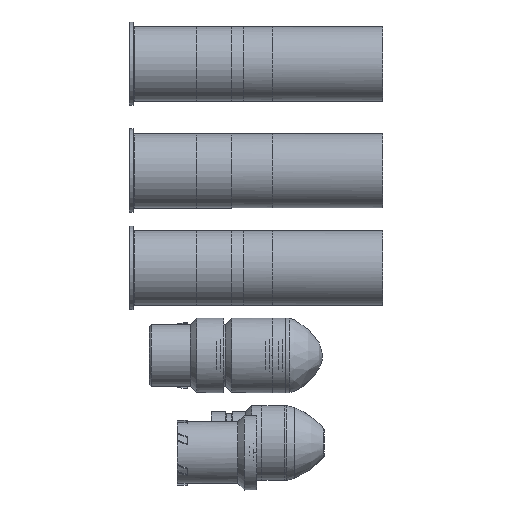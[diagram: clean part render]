
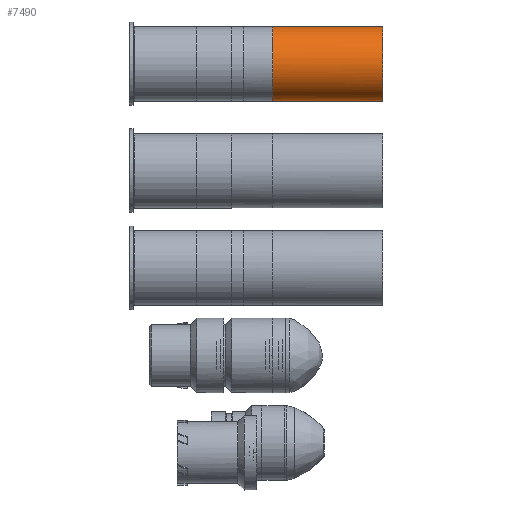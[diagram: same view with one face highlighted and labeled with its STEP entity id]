
A CAD part, front view. The second image highlights one B-rep face of the part: STEP entity #7490.
In plain terms, the highlighted cylindrical face has radius 19.175 mm (diameter 38.35 mm), a full revolution.
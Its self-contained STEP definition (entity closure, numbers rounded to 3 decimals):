
#736=LINE('',#26886,#933);
#933=VECTOR('',#10339,19.175);
#1425=FACE_OUTER_BOUND('',#1976,.T.);
#1976=EDGE_LOOP('',(#6599,#6600,#6601,#6602,#6603,#6604));
#2482=CIRCLE('',#8547,19.175);
#2483=CIRCLE('',#8548,19.175);
#2945=B_SPLINE_CURVE_WITH_KNOTS('',3,(#26835,#26836,#26837,#26838,#26839,
#26840,#26841,#26842,#26843,#26844,#26845,#26846,#26847,#26848,#26849,#26850,
#26851,#26852,#26853,#26854,#26855,#26856,#26857,#26858,#26859),
 .UNSPECIFIED.,.F.,.F.,(4,3,3,3,3,3,3,3,4),(16.714,17.002,
17.578,18.729,19.304,20.168,21.031,
21.894,22.757),.UNSPECIFIED.);
#2946=B_SPLINE_CURVE_WITH_KNOTS('',3,(#26860,#26861,#26862,#26863,#26864,
#26865,#26866,#26867,#26868,#26869,#26870,#26871,#26872,#26873,#26874,#26875,
#26876,#26877,#26878,#26879,#26880,#26881,#26882,#26883,#26884),
 .UNSPECIFIED.,.F.,.F.,(4,3,3,3,3,3,3,3,4),(10.673,11.536,
12.399,13.55,14.125,14.701,15.276,
15.851,16.714),.UNSPECIFIED.);
#3562=VERTEX_POINT('',#26679);
#3563=VERTEX_POINT('',#26681);
#3570=VERTEX_POINT('',#26829);
#3571=VERTEX_POINT('',#26834);
#4586=EDGE_CURVE('',#3562,#3563,#2482,.T.);
#4587=EDGE_CURVE('',#3563,#3562,#2483,.T.);
#4599=EDGE_CURVE('',#3570,#3571,#2945,.F.);
#4600=EDGE_CURVE('',#3571,#3570,#2946,.F.);
#4601=EDGE_CURVE('',#3563,#3571,#736,.T.);
#6599=ORIENTED_EDGE('',*,*,#4587,.F.);
#6600=ORIENTED_EDGE('',*,*,#4601,.T.);
#6601=ORIENTED_EDGE('',*,*,#4599,.F.);
#6602=ORIENTED_EDGE('',*,*,#4600,.F.);
#6603=ORIENTED_EDGE('',*,*,#4601,.F.);
#6604=ORIENTED_EDGE('',*,*,#4586,.F.);
#7066=CYLINDRICAL_SURFACE('',#8558,19.175);
#7490=ADVANCED_FACE('',(#1425),#7066,.T.);
#8547=AXIS2_PLACEMENT_3D('',#26682,#10313,#10314);
#8548=AXIS2_PLACEMENT_3D('',#26683,#10315,#10316);
#8558=AXIS2_PLACEMENT_3D('',#26885,#10337,#10338);
#10313=DIRECTION('center_axis',(-1.,0.,0.));
#10314=DIRECTION('ref_axis',(0.,-1.,0.));
#10315=DIRECTION('center_axis',(-1.,0.,0.));
#10316=DIRECTION('ref_axis',(0.,-1.,0.));
#10337=DIRECTION('center_axis',(-1.,0.,0.));
#10338=DIRECTION('ref_axis',(0.,-1.,0.));
#10339=DIRECTION('',(1.,0.,0.));
#26679=CARTESIAN_POINT('',(-180.13,120.,80.825));
#26681=CARTESIAN_POINT('',(-180.13,139.175,100.));
#26682=CARTESIAN_POINT('Origin',(-180.13,120.,100.));
#26683=CARTESIAN_POINT('Origin',(-180.13,120.,100.));
#26829=CARTESIAN_POINT('',(-52.443,100.825,100.));
#26834=CARTESIAN_POINT('',(-52.443,139.173,100.));
#26835=CARTESIAN_POINT('Ctrl Pts',(-52.443,139.173,100.));
#26836=CARTESIAN_POINT('Ctrl Pts',(-52.443,139.175,99.044));
#26837=CARTESIAN_POINT('Ctrl Pts',(-52.443,139.106,98.088));
#26838=CARTESIAN_POINT('Ctrl Pts',(-52.443,138.965,97.141));
#26839=CARTESIAN_POINT('Ctrl Pts',(-52.443,138.684,95.249));
#26840=CARTESIAN_POINT('Ctrl Pts',(-52.443,138.113,93.398));
#26841=CARTESIAN_POINT('Ctrl Pts',(-52.443,137.279,91.676));
#26842=CARTESIAN_POINT('Ctrl Pts',(-52.443,135.613,88.233));
#26843=CARTESIAN_POINT('Ctrl Pts',(-52.443,132.897,85.309));
#26844=CARTESIAN_POINT('Ctrl Pts',(-52.443,129.589,83.393));
#26845=CARTESIAN_POINT('Ctrl Pts',(-52.443,127.934,82.435));
#26846=CARTESIAN_POINT('Ctrl Pts',(-52.443,126.131,81.729));
#26847=CARTESIAN_POINT('Ctrl Pts',(-52.443,124.266,81.305));
#26848=CARTESIAN_POINT('Ctrl Pts',(-52.443,121.468,80.669));
#26849=CARTESIAN_POINT('Ctrl Pts',(-52.443,118.528,80.668));
#26850=CARTESIAN_POINT('Ctrl Pts',(-52.443,115.733,81.305));
#26851=CARTESIAN_POINT('Ctrl Pts',(-52.443,112.938,81.943));
#26852=CARTESIAN_POINT('Ctrl Pts',(-52.443,110.286,83.22));
#26853=CARTESIAN_POINT('Ctrl Pts',(-52.443,108.044,85.009));
#26854=CARTESIAN_POINT('Ctrl Pts',(-52.443,105.801,86.797));
#26855=CARTESIAN_POINT('Ctrl Pts',(-52.443,103.968,89.096));
#26856=CARTESIAN_POINT('Ctrl Pts',(-52.443,102.724,91.68));
#26857=CARTESIAN_POINT('Ctrl Pts',(-52.443,101.48,94.264));
#26858=CARTESIAN_POINT('Ctrl Pts',(-52.443,100.825,97.131));
#26859=CARTESIAN_POINT('Ctrl Pts',(-52.443,100.825,100.));
#26860=CARTESIAN_POINT('Ctrl Pts',(-52.443,100.825,100.));
#26861=CARTESIAN_POINT('Ctrl Pts',(-52.443,100.825,102.869));
#26862=CARTESIAN_POINT('Ctrl Pts',(-52.443,101.48,105.733));
#26863=CARTESIAN_POINT('Ctrl Pts',(-52.443,102.724,108.318));
#26864=CARTESIAN_POINT('Ctrl Pts',(-52.443,103.968,110.903));
#26865=CARTESIAN_POINT('Ctrl Pts',(-52.443,105.801,113.208));
#26866=CARTESIAN_POINT('Ctrl Pts',(-52.443,108.043,114.995));
#26867=CARTESIAN_POINT('Ctrl Pts',(-52.443,111.034,117.377));
#26868=CARTESIAN_POINT('Ctrl Pts',(-52.443,114.753,118.837));
#26869=CARTESIAN_POINT('Ctrl Pts',(-52.443,118.566,119.125));
#26870=CARTESIAN_POINT('Ctrl Pts',(-52.443,120.472,119.269));
#26871=CARTESIAN_POINT('Ctrl Pts',(-52.443,122.402,119.12));
#26872=CARTESIAN_POINT('Ctrl Pts',(-52.443,124.267,118.693));
#26873=CARTESIAN_POINT('Ctrl Pts',(-52.443,126.132,118.267));
#26874=CARTESIAN_POINT('Ctrl Pts',(-52.443,127.933,117.562));
#26875=CARTESIAN_POINT('Ctrl Pts',(-52.443,129.588,116.606));
#26876=CARTESIAN_POINT('Ctrl Pts',(-52.443,131.244,115.651));
#26877=CARTESIAN_POINT('Ctrl Pts',(-52.443,132.754,114.444));
#26878=CARTESIAN_POINT('Ctrl Pts',(-52.443,134.056,113.042));
#26879=CARTESIAN_POINT('Ctrl Pts',(-52.443,135.358,111.64));
#26880=CARTESIAN_POINT('Ctrl Pts',(-52.443,136.452,110.043));
#26881=CARTESIAN_POINT('Ctrl Pts',(-52.443,137.28,108.32));
#26882=CARTESIAN_POINT('Ctrl Pts',(-52.443,138.522,105.735));
#26883=CARTESIAN_POINT('Ctrl Pts',(-52.443,139.166,102.868));
#26884=CARTESIAN_POINT('Ctrl Pts',(-52.443,139.173,100.));
#26885=CARTESIAN_POINT('Origin',(-180.,120.,100.));
#26886=CARTESIAN_POINT('',(-180.,139.175,100.));
